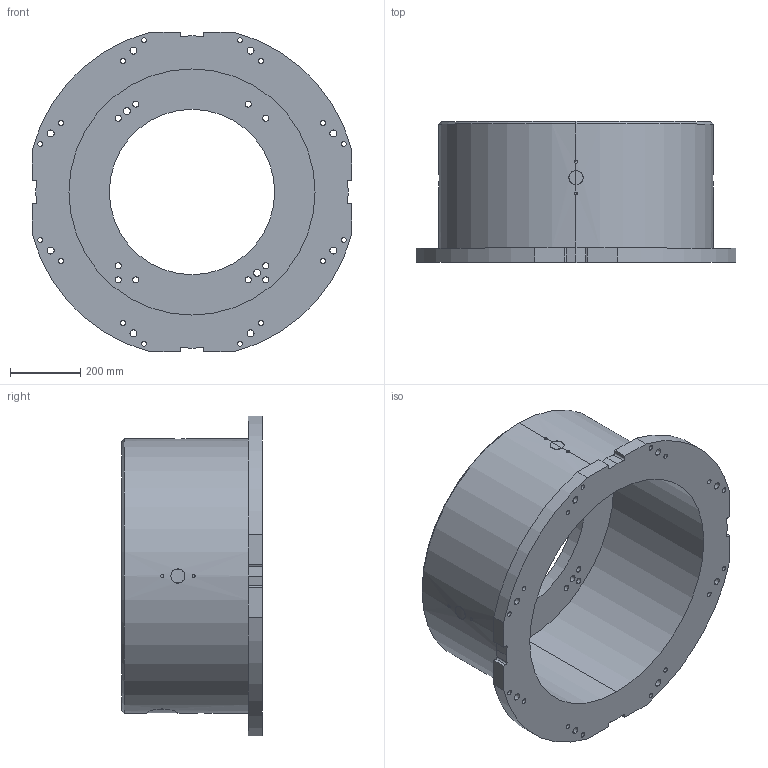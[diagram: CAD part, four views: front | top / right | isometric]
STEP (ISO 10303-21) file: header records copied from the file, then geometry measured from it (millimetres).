
FILE_DESCRIPTION (( 'STEP AP214' ), '1' );
FILE_NAME ('P-400.STEP', '2024-01-24T08:33:27', ( '' ), ( '' ), 'SwSTEP 2.0', 'SolidWorks 2022', '' );
FILE_SCHEMA (( 'AUTOMOTIVE_DESIGN' ));
Length unit declared in the file: millimetre
Products named in the file (1): P-400
Bounding box: 910 x 400 x 910 mm (x, y, z)
Volume: 52766917.4 mm3; surface area: 2920637.1 mm2
Topology: 1 solids, 1 shells, 182 faces, 496 edges, 326 vertices
Faces by surface type: cylinder 136, plane 28, bspline 16, cone 2
Entity records: 10248 total; most frequent: CARTESIAN_POINT 4680, ORIENTED_EDGE 992, DIRECTION 932, EDGE_CURVE 496, AXIS2_PLACEMENT_3D 365, VERTEX_POINT 326, EDGE_LOOP 266, LINE 202
